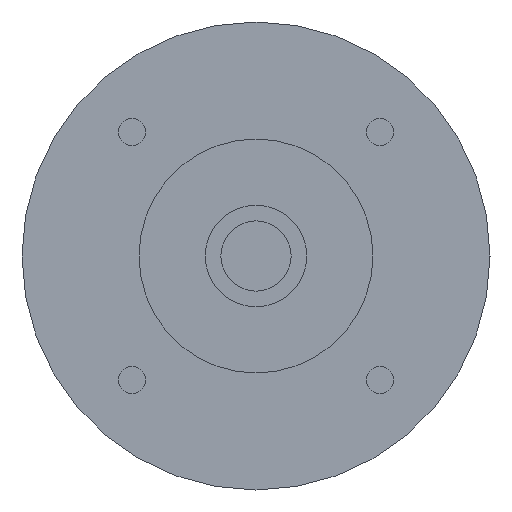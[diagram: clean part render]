
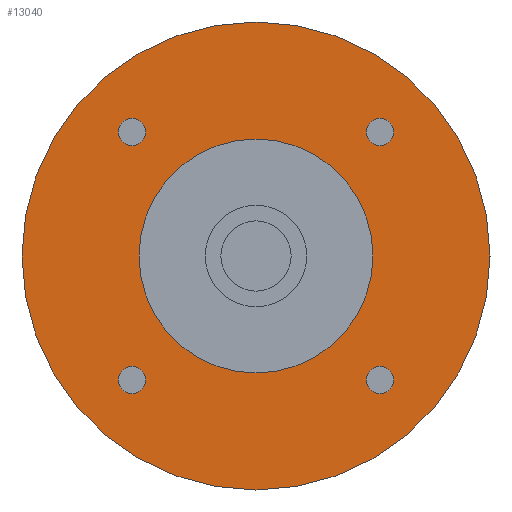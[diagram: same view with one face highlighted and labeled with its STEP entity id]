
A CAD part, left-side view. The second image highlights one B-rep face of the part: STEP entity #13040.
In plain terms, the highlighted planar face has unit normal (-1, 0, 0) as drawn and (0, 0, -1) by its records, which use the part's own axes.
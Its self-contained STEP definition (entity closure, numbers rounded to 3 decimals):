
#9080=CARTESIAN_POINT('',(-30.,0.,-39.));
#9090=VERTEX_POINT('',#9080);
#9180=CARTESIAN_POINT('',(30.,0.,-39.));
#9190=VERTEX_POINT('',#9180);
#9220=CARTESIAN_POINT('',(0.,0.,-39.
));
#9230=DIRECTION('',(0.,0.,1.));
#9240=DIRECTION('',(1.,0.,0.));
#9250=AXIS2_PLACEMENT_3D('',#9220,#9230,#9240);
#9260=CIRCLE('',#9250,30.);
#9270=CARTESIAN_POINT('',(0.,-30.,-39.));
#9280=VERTEX_POINT('',#9270);
#9290=EDGE_CURVE('',#9280,#9190,#9260,.T.);
#9310=EDGE_CURVE('',#9090,#9280,#9260,.T.);
#12010=CARTESIAN_POINT('',(-14.16,15.91,-39.));
#12020=VERTEX_POINT('',#12010);
#12050=CARTESIAN_POINT('',(-15.91,15.91,-39.));
#12060=DIRECTION('',(0.,0.,-1.));
#12070=DIRECTION('',(-1.,0.,0.));
#12080=AXIS2_PLACEMENT_3D('',#12050,#12060,#12070);
#12090=CIRCLE('',#12080,1.75);
#12100=CARTESIAN_POINT('',(-17.66,15.91,-39.));
#12110=VERTEX_POINT('',#12100);
#12120=EDGE_CURVE('',#12110,#12020,#12090,.T.);
#12240=CARTESIAN_POINT('',(0.,0.,
-39.));
#12250=DIRECTION('',(0.,0.,-1.));
#12260=DIRECTION('',(1.,0.,0.));
#12270=AXIS2_PLACEMENT_3D('',#12240,#12250,#12260);
#12280=PLANE('',#12270);
#12290=CARTESIAN_POINT('',(15.91,15.91,-39.));
#12300=DIRECTION('',(0.,0.,-1.));
#12310=DIRECTION('',(0.,1.,0.));
#12320=AXIS2_PLACEMENT_3D('',#12290,#12300,#12310);
#12330=CIRCLE('',#12320,1.75);
#12340=CARTESIAN_POINT('',(15.91,17.66,-39.));
#12350=VERTEX_POINT('',#12340);
#12360=CARTESIAN_POINT('',(15.91,14.16,-39.));
#12370=VERTEX_POINT('',#12360);
#12380=EDGE_CURVE('',#12350,#12370,#12330,.T.);
#12390=ORIENTED_EDGE('',*,*,#12380,.F.);
#12400=EDGE_CURVE('',#12370,#12350,#12330,.T.);
#12410=ORIENTED_EDGE('',*,*,#12400,.F.);
#12420=EDGE_LOOP('',(#12410,#12390));
#12430=FACE_BOUND('',#12420,.T.);
#12440=ORIENTED_EDGE('',*,*,#12120,.F.);
#12450=EDGE_CURVE('',#12020,#12110,#12090,.T.);
#12460=ORIENTED_EDGE('',*,*,#12450,.F.);
#12470=EDGE_LOOP('',(#12460,#12440));
#12480=FACE_BOUND('',#12470,.T.);
#12490=CARTESIAN_POINT('',(-15.91,-15.91,-39.));
#12500=DIRECTION('',(0.,0.,-1.));
#12510=DIRECTION('',(0.,-1.,0.));
#12520=AXIS2_PLACEMENT_3D('',#12490,#12500,#12510);
#12530=CIRCLE('',#12520,1.75);
#12540=CARTESIAN_POINT('',(-15.91,-17.66,-39.));
#12550=VERTEX_POINT('',#12540);
#12560=CARTESIAN_POINT('',(-15.91,-14.16,-39.));
#12570=VERTEX_POINT('',#12560);
#12580=EDGE_CURVE('',#12550,#12570,#12530,.T.);
#12590=ORIENTED_EDGE('',*,*,#12580,.F.);
#12600=EDGE_CURVE('',#12570,#12550,#12530,.T.);
#12610=ORIENTED_EDGE('',*,*,#12600,.F.);
#12620=EDGE_LOOP('',(#12610,#12590));
#12630=FACE_BOUND('',#12620,.T.);
#12640=CARTESIAN_POINT('',(0.,0.,
-39.));
#12650=DIRECTION('',(0.,0.,1.));
#12660=DIRECTION('',(0.,1.,0.));
#12670=AXIS2_PLACEMENT_3D('',#12640,#12650,#12660);
#12680=CIRCLE('',#12670,15.);
#12690=CARTESIAN_POINT('',(-15.,0.,-39.));
#12700=VERTEX_POINT('',#12690);
#12710=CARTESIAN_POINT('',(15.,0.,-39.));
#12720=VERTEX_POINT('',#12710);
#12730=EDGE_CURVE('',#12700,#12720,#12680,.T.);
#12740=ORIENTED_EDGE('',*,*,#12730,.T.);
#12750=CARTESIAN_POINT('',(0.,15.,-39.));
#12760=VERTEX_POINT('',#12750);
#12770=EDGE_CURVE('',#12760,#12700,#12680,.T.);
#12780=ORIENTED_EDGE('',*,*,#12770,.T.);
#12790=EDGE_CURVE('',#12720,#12760,#12680,.T.);
#12800=ORIENTED_EDGE('',*,*,#12790,.T.);
#12810=EDGE_LOOP('',(#12800,#12780,#12740));
#12820=FACE_BOUND('',#12810,.T.);
#12830=CARTESIAN_POINT('',(15.91,-15.91,-39.));
#12840=DIRECTION('',(0.,0.,-1.));
#12850=DIRECTION('',(1.,0.,0.));
#12860=AXIS2_PLACEMENT_3D('',#12830,#12840,#12850);
#12870=CIRCLE('',#12860,1.75);
#12880=CARTESIAN_POINT('',(17.66,-15.91,-39.));
#12890=VERTEX_POINT('',#12880);
#12900=CARTESIAN_POINT('',(14.16,-15.91,-39.));
#12910=VERTEX_POINT('',#12900);
#12920=EDGE_CURVE('',#12890,#12910,#12870,.T.);
#12930=ORIENTED_EDGE('',*,*,#12920,.F.);
#12940=EDGE_CURVE('',#12910,#12890,#12870,.T.);
#12950=ORIENTED_EDGE('',*,*,#12940,.F.);
#12960=EDGE_LOOP('',(#12950,#12930));
#12970=FACE_BOUND('',#12960,.T.);
#12980=ORIENTED_EDGE('',*,*,#9290,.F.);
#12990=EDGE_CURVE('',#9190,#9090,#9260,.T.);
#13000=ORIENTED_EDGE('',*,*,#12990,.F.);
#13010=ORIENTED_EDGE('',*,*,#9310,.F.);
#13020=EDGE_LOOP('',(#13010,#13000,#12980));
#13030=FACE_OUTER_BOUND('',#13020,.T.);
#13040=ADVANCED_FACE('',(#12430,#12480,#12630,#12820,#12970,#13030),
#12280,.T.);
